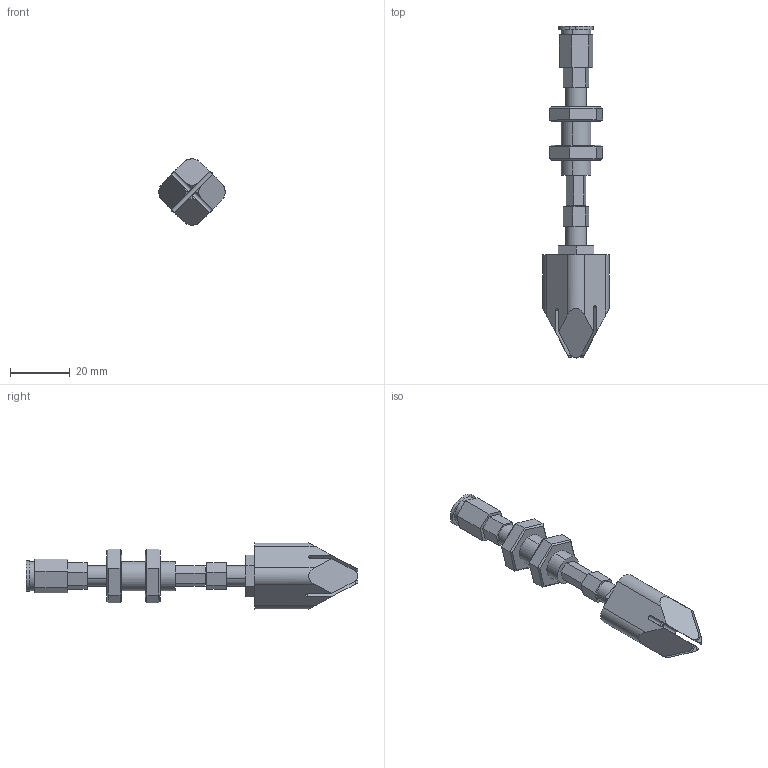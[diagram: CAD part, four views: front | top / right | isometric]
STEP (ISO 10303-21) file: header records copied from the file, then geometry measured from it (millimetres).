
FILE_DESCRIPTION (( 'STEP AP214' ), '1' );
FILE_NAME ('GBS-3B-S01.STEP', '2019-12-04T09:02:11', ( '微软用户' ), ( '微软中国' ), 'SwSTEP 2.0', 'SolidWorks 2016', '' );
FILE_SCHEMA (( 'AUTOMOTIVE_DESIGN' ));
Length unit declared in the file: millimetre
Products named in the file (1): GBS-3B-S01
Bounding box: 22.14 x 110.89 x 22.14 mm (x, y, z)
Volume: 12873.4 mm3; surface area: 8558 mm2
Topology: 3 solids, 3 shells, 170 faces, 392 edges, 246 vertices
Faces by surface type: plane 113, cylinder 49, cone 8
Entity records: 6670 total; most frequent: CARTESIAN_POINT 857, DIRECTION 810, ORIENTED_EDGE 784, EDGE_CURVE 392, LINE 284, VECTOR 284, AXIS2_PLACEMENT_3D 263, VERTEX_POINT 246
